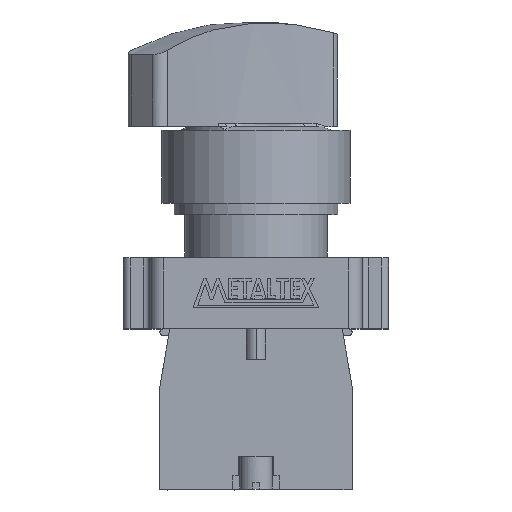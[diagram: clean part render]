
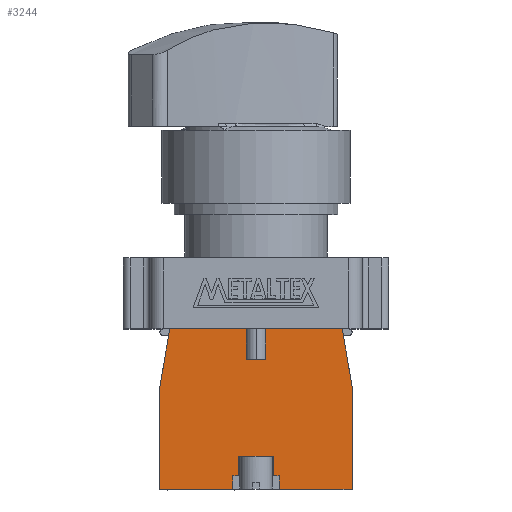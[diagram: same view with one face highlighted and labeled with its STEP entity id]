
A CAD part, top view. The second image highlights one B-rep face of the part: STEP entity #3244.
In plain terms, the highlighted planar face has unit normal (0, 0, 1).
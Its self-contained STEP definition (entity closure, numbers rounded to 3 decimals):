
#808 = EDGE_LOOP ( 'NONE', ( #6671, #6673, #6670, #6672, #6674, #6675, #6677, #6676, #6678, #6679, #6681, #6680, #6682, #6684, #6683, #6685, #6686, #6688 ) ) ;
#1428 = LINE ( 'NONE', #1429, #5922 ) ;
#1429 = CARTESIAN_POINT ( 'NONE',  ( 1.5, 19.6, 7.45 ) ) ;
#1430 = DIRECTION ( 'NONE',  ( 0., 1., 0. ) ) ;
#1431 = LINE ( 'NONE', #1432, #5919 ) ;
#1432 = CARTESIAN_POINT ( 'NONE',  ( 3.5, 0., 7.45 ) ) ;
#1433 = DIRECTION ( 'NONE',  ( 0., 1., 0. ) ) ;
#1434 = LINE ( 'NONE', #1435, #5997 ) ;
#1435 = CARTESIAN_POINT ( 'NONE',  ( 0., 2., 7.45 ) ) ;
#1436 = DIRECTION ( 'NONE',  ( 1., 0., 0. ) ) ;
#1437 = LINE ( 'NONE', #1438, #5885 ) ;
#1438 = CARTESIAN_POINT ( 'NONE',  ( 2.6, 0., 7.45 ) ) ;
#1439 = DIRECTION ( 'NONE',  ( 0., 1., 0. ) ) ;
#1440 = LINE ( 'NONE', #1441, #5882 ) ;
#1441 = CARTESIAN_POINT ( 'NONE',  ( -2.6, 0., 7.45 ) ) ;
#1442 = DIRECTION ( 'NONE',  ( 0., 1., 0. ) ) ;
#1443 = LINE ( 'NONE', #1444, #5916 ) ;
#1444 = CARTESIAN_POINT ( 'NONE',  ( 0., 2., 7.45 ) ) ;
#1445 = DIRECTION ( 'NONE',  ( 1., 0., 0. ) ) ;
#1446 = LINE ( 'NONE', #1447, #5928 ) ;
#1447 = CARTESIAN_POINT ( 'NONE',  ( -3.5, 0., 7.45 ) ) ;
#1448 = DIRECTION ( 'NONE',  ( 0., 1., 0. ) ) ;
#1449 = LINE ( 'NONE', #1450, #5929 ) ;
#1450 = CARTESIAN_POINT ( 'NONE',  ( -1.5, 19.6, 7.45 ) ) ;
#1451 = DIRECTION ( 'NONE',  ( 0., 1., 0. ) ) ;
#1452 = LINE ( 'NONE', #1453, #5864 ) ;
#1453 = CARTESIAN_POINT ( 'NONE',  ( -13., 24.2, 7.45 ) ) ;
#1454 = DIRECTION ( 'NONE',  ( -0.17, -0.985, 0. ) ) ;
#1464 = LINE ( 'NONE', #1465, #5851 ) ;
#1465 = CARTESIAN_POINT ( 'NONE',  ( 14.5, 0., 7.45 ) ) ;
#1466 = DIRECTION ( 'NONE',  ( 0., 1., 0. ) ) ;
#1578 = LINE ( 'NONE', #1579, #5930 ) ;
#1579 = CARTESIAN_POINT ( 'NONE',  ( -14.5, 0., 7.45 ) ) ;
#1580 = DIRECTION ( 'NONE',  ( 1., 0., 0. ) ) ;
#1587 = LINE ( 'NONE', #1588, #5923 ) ;
#1588 = CARTESIAN_POINT ( 'NONE',  ( -14.5, 0., 7.45 ) ) ;
#1589 = DIRECTION ( 'NONE',  ( 1., 0., 0. ) ) ;
#3244 = ADVANCED_FACE ( 'NONE', ( #8694 ), #5471, .T. ) ;
#4641 = VECTOR ( 'NONE', #13119, 1000. ) ;
#4645 = VECTOR ( 'NONE', #13107, 1000. ) ;
#4651 = VECTOR ( 'NONE', #13086, 1000. ) ;
#5471 = PLANE ( 'NONE',  #8711 ) ;
#5472 = CARTESIAN_POINT ( 'NONE',  ( 0., 0., 7.45 ) ) ;
#5473 = DIRECTION ( 'NONE',  ( 0., 0., 1. ) ) ;
#5474 = DIRECTION ( 'NONE',  ( 1., 0., 0. ) ) ;
#5851 = VECTOR ( 'NONE', #1466, 1000. ) ;
#5864 = VECTOR ( 'NONE', #1454, 1000. ) ;
#5882 = VECTOR ( 'NONE', #1442, 1000. ) ;
#5885 = VECTOR ( 'NONE', #1439, 1000. ) ;
#5916 = VECTOR ( 'NONE', #1445, 1000. ) ;
#5919 = VECTOR ( 'NONE', #1433, 1000. ) ;
#5922 = VECTOR ( 'NONE', #1430, 1000. ) ;
#5923 = VECTOR ( 'NONE', #1589, 1000. ) ;
#5928 = VECTOR ( 'NONE', #1448, 1000. ) ;
#5929 = VECTOR ( 'NONE', #1451, 1000. ) ;
#5930 = VECTOR ( 'NONE', #1580, 1000. ) ;
#5997 = VECTOR ( 'NONE', #1436, 1000. ) ;
#6670 = ORIENTED_EDGE ( 'NONE', *, *, #8057, .T. ) ;
#6671 = ORIENTED_EDGE ( 'NONE', *, *, #8056, .T. ) ;
#6672 = ORIENTED_EDGE ( 'NONE', *, *, #8919, .T. ) ;
#6673 = ORIENTED_EDGE ( 'NONE', *, *, #8502, .T. ) ;
#6674 = ORIENTED_EDGE ( 'NONE', *, *, #8100, .T. ) ;
#6675 = ORIENTED_EDGE ( 'NONE', *, *, #8055, .T. ) ;
#6676 = ORIENTED_EDGE ( 'NONE', *, *, #8053, .T. ) ;
#6677 = ORIENTED_EDGE ( 'NONE', *, *, #8054, .T. ) ;
#6678 = ORIENTED_EDGE ( 'NONE', *, *, #8540, .F. ) ;
#6679 = ORIENTED_EDGE ( 'NONE', *, *, #8052, .F. ) ;
#6680 = ORIENTED_EDGE ( 'NONE', *, *, #8049, .F. ) ;
#6681 = ORIENTED_EDGE ( 'NONE', *, *, #8050, .T. ) ;
#6682 = ORIENTED_EDGE ( 'NONE', *, *, #8103, .T. ) ;
#6683 = ORIENTED_EDGE ( 'NONE', *, *, #8495, .T. ) ;
#6684 = ORIENTED_EDGE ( 'NONE', *, *, #8062, .T. ) ;
#6685 = ORIENTED_EDGE ( 'NONE', *, *, #8506, .T. ) ;
#6686 = ORIENTED_EDGE ( 'NONE', *, *, #8048, .F. ) ;
#6688 = ORIENTED_EDGE ( 'NONE', *, *, #8546, .T. ) ;
#8048 = EDGE_CURVE ( 'NONE', #11729, #11754, #1428, .T. ) ;
#8049 = EDGE_CURVE ( 'NONE', #11623, #11555, #1431, .T. ) ;
#8050 = EDGE_CURVE ( 'NONE', #11557, #11555, #1434, .T. ) ;
#8052 = EDGE_CURVE ( 'NONE', #11557, #11733, #1437, .T. ) ;
#8053 = EDGE_CURVE ( 'NONE', #11558, #11732, #1440, .T. ) ;
#8054 = EDGE_CURVE ( 'NONE', #11560, #11558, #1443, .T. ) ;
#8055 = EDGE_CURVE ( 'NONE', #11616, #11560, #1446, .T. ) ;
#8056 = EDGE_CURVE ( 'NONE', #11727, #11756, #1449, .T. ) ;
#8057 = EDGE_CURVE ( 'NONE', #11757, #11719, #1452, .T. ) ;
#8062 = EDGE_CURVE ( 'NONE', #11622, #11760, #1464, .T. ) ;
#8100 = EDGE_CURVE ( 'NONE', #11720, #11616, #1578, .T. ) ;
#8103 = EDGE_CURVE ( 'NONE', #11623, #11622, #1587, .T. ) ;
#8495 = EDGE_CURVE ( 'NONE', #11760, #11761, #13084, .T. ) ;
#8502 = EDGE_CURVE ( 'NONE', #11756, #11757, #13105, .T. ) ;
#8506 = EDGE_CURVE ( 'NONE', #11761, #11754, #13117, .T. ) ;
#8540 = EDGE_CURVE ( 'NONE', #11733, #11732, #13219, .T. ) ;
#8546 = EDGE_CURVE ( 'NONE', #11729, #11727, #13237, .T. ) ;
#8694 = FACE_OUTER_BOUND ( 'NONE', #808, .T. ) ;
#8711 = AXIS2_PLACEMENT_3D ( 'NONE', #5472, #5473, #5474 ) ;
#8919 = EDGE_CURVE ( 'NONE', #11719, #11720, #13710, .T. ) ;
#9337 = CARTESIAN_POINT ( 'NONE',  ( 3.5, 2., 7.45 ) ) ;
#9338 = CARTESIAN_POINT ( 'NONE',  ( 2.6, 2., 7.45 ) ) ;
#9339 = CARTESIAN_POINT ( 'NONE',  ( -2.6, 2., 7.45 ) ) ;
#9340 = CARTESIAN_POINT ( 'NONE',  ( -3.5, 2., 7.45 ) ) ;
#9370 = CARTESIAN_POINT ( 'NONE',  ( -3.5, 0., 7.45 ) ) ;
#9373 = CARTESIAN_POINT ( 'NONE',  ( 14.5, 0., 7.45 ) ) ;
#9374 = CARTESIAN_POINT ( 'NONE',  ( 3.5, 0., 7.45 ) ) ;
#9432 = CARTESIAN_POINT ( 'NONE',  ( -14.5, 15.5, 7.45 ) ) ;
#9433 = CARTESIAN_POINT ( 'NONE',  ( -14.5, 0., 7.45 ) ) ;
#9440 = CARTESIAN_POINT ( 'NONE',  ( -1.5, 19.6, 7.45 ) ) ;
#9442 = CARTESIAN_POINT ( 'NONE',  ( 1.5, 19.6, 7.45 ) ) ;
#9445 = CARTESIAN_POINT ( 'NONE',  ( -2.6, 5., 7.45 ) ) ;
#9446 = CARTESIAN_POINT ( 'NONE',  ( 2.6, 5., 7.45 ) ) ;
#9467 = CARTESIAN_POINT ( 'NONE',  ( 1.5, 24.2, 7.45 ) ) ;
#9469 = CARTESIAN_POINT ( 'NONE',  ( -1.5, 24.2, 7.45 ) ) ;
#9470 = CARTESIAN_POINT ( 'NONE',  ( -13., 24.2, 7.45 ) ) ;
#9473 = CARTESIAN_POINT ( 'NONE',  ( 14.5, 15.5, 7.45 ) ) ;
#9474 = CARTESIAN_POINT ( 'NONE',  ( 13., 24.2, 7.45 ) ) ;
#11555 = VERTEX_POINT ( 'NONE', #9337 ) ;
#11557 = VERTEX_POINT ( 'NONE', #9338 ) ;
#11558 = VERTEX_POINT ( 'NONE', #9339 ) ;
#11560 = VERTEX_POINT ( 'NONE', #9340 ) ;
#11616 = VERTEX_POINT ( 'NONE', #9370 ) ;
#11622 = VERTEX_POINT ( 'NONE', #9373 ) ;
#11623 = VERTEX_POINT ( 'NONE', #9374 ) ;
#11719 = VERTEX_POINT ( 'NONE', #9432 ) ;
#11720 = VERTEX_POINT ( 'NONE', #9433 ) ;
#11727 = VERTEX_POINT ( 'NONE', #9440 ) ;
#11729 = VERTEX_POINT ( 'NONE', #9442 ) ;
#11732 = VERTEX_POINT ( 'NONE', #9445 ) ;
#11733 = VERTEX_POINT ( 'NONE', #9446 ) ;
#11754 = VERTEX_POINT ( 'NONE', #9467 ) ;
#11756 = VERTEX_POINT ( 'NONE', #9469 ) ;
#11757 = VERTEX_POINT ( 'NONE', #9470 ) ;
#11760 = VERTEX_POINT ( 'NONE', #9473 ) ;
#11761 = VERTEX_POINT ( 'NONE', #9474 ) ;
#12175 = VECTOR ( 'NONE', #13221, 1000. ) ;
#12180 = VECTOR ( 'NONE', #13239, 1000. ) ;
#12312 = VECTOR ( 'NONE', #13712, 1000. ) ;
#13084 = LINE ( 'NONE', #13085, #4651 ) ;
#13085 = CARTESIAN_POINT ( 'NONE',  ( 14.5, 15.5, 7.45 ) ) ;
#13086 = DIRECTION ( 'NONE',  ( -0.17, 0.985, 0. ) ) ;
#13105 = LINE ( 'NONE', #13106, #4645 ) ;
#13106 = CARTESIAN_POINT ( 'NONE',  ( 13., 24.2, 7.45 ) ) ;
#13107 = DIRECTION ( 'NONE',  ( -1., 0., 0. ) ) ;
#13117 = LINE ( 'NONE', #13118, #4641 ) ;
#13118 = CARTESIAN_POINT ( 'NONE',  ( 13., 24.2, 7.45 ) ) ;
#13119 = DIRECTION ( 'NONE',  ( -1., 0., 0. ) ) ;
#13219 = LINE ( 'NONE', #13220, #12175 ) ;
#13220 = CARTESIAN_POINT ( 'NONE',  ( 0., 5., 7.45 ) ) ;
#13221 = DIRECTION ( 'NONE',  ( -1., 0., 0. ) ) ;
#13237 = LINE ( 'NONE', #13238, #12180 ) ;
#13238 = CARTESIAN_POINT ( 'NONE',  ( 0., 19.6, 7.45 ) ) ;
#13239 = DIRECTION ( 'NONE',  ( -1., 0., 0. ) ) ;
#13710 = LINE ( 'NONE', #13711, #12312 ) ;
#13711 = CARTESIAN_POINT ( 'NONE',  ( -14.5, 15.5, 7.45 ) ) ;
#13712 = DIRECTION ( 'NONE',  ( 0., -1., 0. ) ) ;
